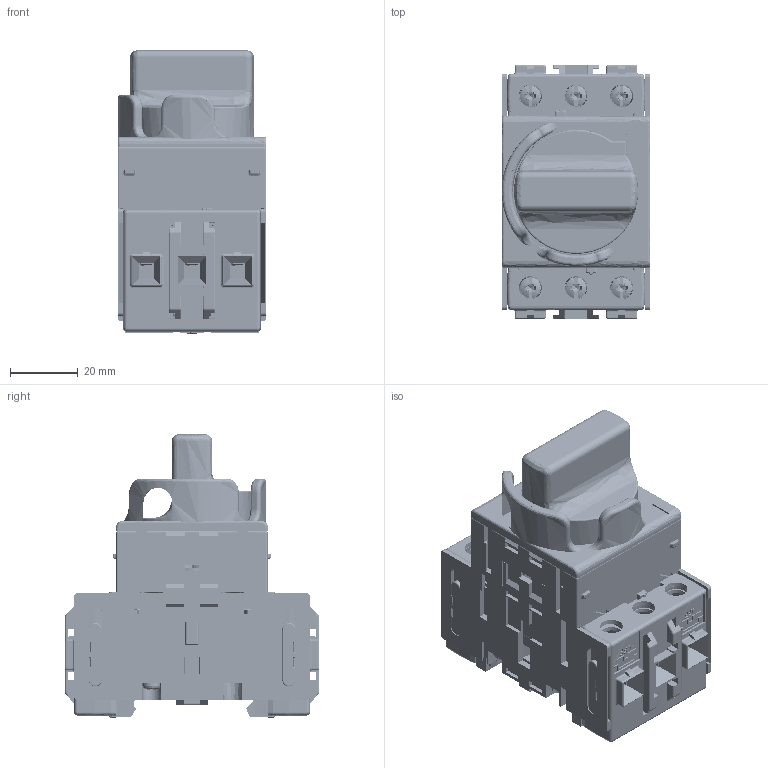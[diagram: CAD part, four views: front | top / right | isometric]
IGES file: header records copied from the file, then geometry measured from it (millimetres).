
Start section: START RECORD GO HERE.
Global section: file name: 002221950.igs; native system: DASSAULT SYSTEMES CATIA Version 5-6 Release 2014 - www.3ds.com; preprocessor: V5-6R2014_5.24.4.0.09-01-2014.20.00; author: fantini; organization: EU; date: 20161129.091412; units: millimetre
Bounding box: 44 x 75.15 x 83.76 mm (x, y, z)
Surface area: 115073.4 mm2 (no closed solid volume)
Topology: 0 solids, 0 shells, 7451 faces, 39656 edges, 39356 vertices
Faces by surface type: bspline 7451
